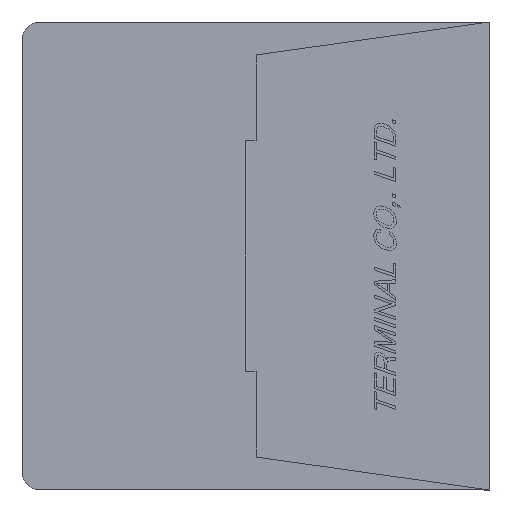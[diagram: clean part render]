
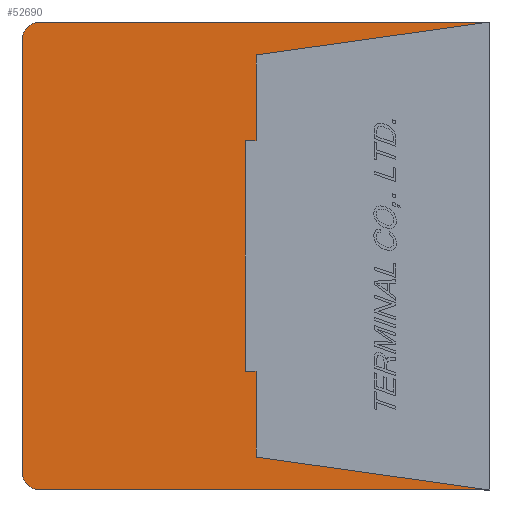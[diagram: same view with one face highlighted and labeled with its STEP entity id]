
A CAD part, left-side view. The second image highlights one B-rep face of the part: STEP entity #52690.
In plain terms, the highlighted planar face has unit normal (-1, 0, 0).
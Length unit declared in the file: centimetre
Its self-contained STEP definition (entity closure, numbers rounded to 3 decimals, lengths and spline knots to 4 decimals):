
#2692=CIRCLE('',#90459,0.05);
#2693=CIRCLE('',#90462,0.05);
#4520=VERTEX_POINT('',#72835);
#4521=VERTEX_POINT('',#72837);
#4522=VERTEX_POINT('',#72841);
#4523=VERTEX_POINT('',#72845);
#4524=VERTEX_POINT('',#72849);
#4525=VERTEX_POINT('',#72853);
#4526=VERTEX_POINT('',#72857);
#4527=VERTEX_POINT('',#72859);
#4528=VERTEX_POINT('',#72861);
#4529=VERTEX_POINT('',#72863);
#4530=VERTEX_POINT('',#72865);
#4531=VERTEX_POINT('',#72867);
#10090=VECTOR('',#61048,1.);
#10094=VECTOR('',#61057,1.);
#10097=VECTOR('',#61065,1.);
#10098=VECTOR('',#61067,1.);
#10099=VECTOR('',#61068,1.);
#10100=VECTOR('',#61069,1.);
#10101=VECTOR('',#61070,1.);
#10102=VECTOR('',#61071,1.);
#10103=VECTOR('',#61072,1.);
#10104=VECTOR('',#61073,1.);
#16294=LINE('',#72836,#10090);
#16298=LINE('',#72846,#10094);
#16301=LINE('',#72854,#10097);
#16302=LINE('',#72856,#10098);
#16303=LINE('',#72858,#10099);
#16304=LINE('',#72860,#10100);
#16305=LINE('',#72862,#10101);
#16306=LINE('',#72864,#10102);
#16307=LINE('',#72866,#10103);
#16308=LINE('',#72868,#10104);
#23150=EDGE_CURVE('',#4521,#4520,#16294,.T.);
#23153=EDGE_CURVE('',#4522,#4520,#2692,.T.);
#23155=EDGE_CURVE('',#4522,#4523,#16298,.T.);
#23157=EDGE_CURVE('',#4524,#4523,#2693,.T.);
#23159=EDGE_CURVE('',#4524,#4525,#16301,.T.);
#23160=EDGE_CURVE('',#4526,#4521,#16302,.T.);
#23161=EDGE_CURVE('',#4525,#4527,#16303,.T.);
#23162=EDGE_CURVE('',#4527,#4528,#16304,.T.);
#23163=EDGE_CURVE('',#4528,#4529,#16305,.T.);
#23164=EDGE_CURVE('',#4529,#4530,#16306,.T.);
#23165=EDGE_CURVE('',#4530,#4531,#16307,.T.);
#23166=EDGE_CURVE('',#4531,#4526,#16308,.T.);
#33623=ORIENTED_EDGE('',*,*,#23160,.T.);
#33624=ORIENTED_EDGE('',*,*,#23150,.T.);
#33625=ORIENTED_EDGE('',*,*,#23153,.F.);
#33626=ORIENTED_EDGE('',*,*,#23155,.T.);
#33627=ORIENTED_EDGE('',*,*,#23157,.F.);
#33628=ORIENTED_EDGE('',*,*,#23159,.T.);
#33629=ORIENTED_EDGE('',*,*,#23161,.T.);
#33630=ORIENTED_EDGE('',*,*,#23162,.T.);
#33631=ORIENTED_EDGE('',*,*,#23163,.T.);
#33632=ORIENTED_EDGE('',*,*,#23164,.T.);
#33633=ORIENTED_EDGE('',*,*,#23165,.T.);
#33634=ORIENTED_EDGE('',*,*,#23166,.T.);
#45836=EDGE_LOOP('',(#33623,#33624,#33625,#33626,#33627,#33628,#33629,#33630,
#33631,#33632,#33633,#33634));
#49336=FACE_BOUND('',#45836,.T.);
#52690=ADVANCED_FACE('',(#49336),#55632,.F.);
#55632=PLANE('',#90464);
#61048=DIRECTION('',(0.,1.,0.));
#61053=DIRECTION('',(1.,0.,0.));
#61054=DIRECTION('',(0.,0.,-0.05));
#61057=DIRECTION('',(0.,0.,-1.));
#61061=DIRECTION('',(1.,0.,0.));
#61062=DIRECTION('',(0.,0.,-0.05));
#61065=DIRECTION('',(0.,-1.,0.));
#61066=DIRECTION('',(1.,0.,0.));
#61067=DIRECTION('',(0.,-0.99,0.139));
#61068=DIRECTION('',(0.,0.99,0.139));
#61069=DIRECTION('',(0.,0.,1.));
#61070=DIRECTION('',(0.,1.,0.));
#61071=DIRECTION('',(0.,0.,1.));
#61072=DIRECTION('',(0.,-1.,0.));
#61073=DIRECTION('',(0.,0.,1.));
#72835=CARTESIAN_POINT('',(-0.889,1.23,0.64));
#72836=CARTESIAN_POINT('',(-0.889,0.,0.64));
#72837=CARTESIAN_POINT('',(-0.889,0.,0.64));
#72841=CARTESIAN_POINT('',(-0.889,1.28,0.59));
#72842=CARTESIAN_POINT('',(-0.889,1.23,0.59));
#72845=CARTESIAN_POINT('',(-0.889,1.28,-0.59));
#72846=CARTESIAN_POINT('',(-0.889,1.28,0.59));
#72849=CARTESIAN_POINT('',(-0.889,1.23,-0.64));
#72850=CARTESIAN_POINT('',(-0.889,1.23,-0.59));
#72853=CARTESIAN_POINT('',(-0.889,0.,-0.64));
#72854=CARTESIAN_POINT('',(-0.889,1.23,-0.64));
#72855=CARTESIAN_POINT('',(-0.889,0.6345,0.));
#72856=CARTESIAN_POINT('',(-0.889,0.64,0.55));
#72857=CARTESIAN_POINT('',(-0.889,0.64,0.55));
#72858=CARTESIAN_POINT('',(-0.889,0.,-0.64));
#72859=CARTESIAN_POINT('',(-0.889,0.64,-0.55));
#72860=CARTESIAN_POINT('',(-0.889,0.64,-0.55));
#72861=CARTESIAN_POINT('',(-0.889,0.64,-0.315));
#72862=CARTESIAN_POINT('',(-0.889,0.64,-0.315));
#72863=CARTESIAN_POINT('',(-0.889,0.67,-0.315));
#72864=CARTESIAN_POINT('',(-0.889,0.67,-0.315));
#72865=CARTESIAN_POINT('',(-0.889,0.67,0.315));
#72866=CARTESIAN_POINT('',(-0.889,0.67,0.315));
#72867=CARTESIAN_POINT('',(-0.889,0.64,0.315));
#72868=CARTESIAN_POINT('',(-0.889,0.64,0.315));
#90459=AXIS2_PLACEMENT_3D('',#72842,#61053,#61054);
#90462=AXIS2_PLACEMENT_3D('',#72850,#61061,#61062);
#90464=AXIS2_PLACEMENT_3D('',#72855,#61066,$);
